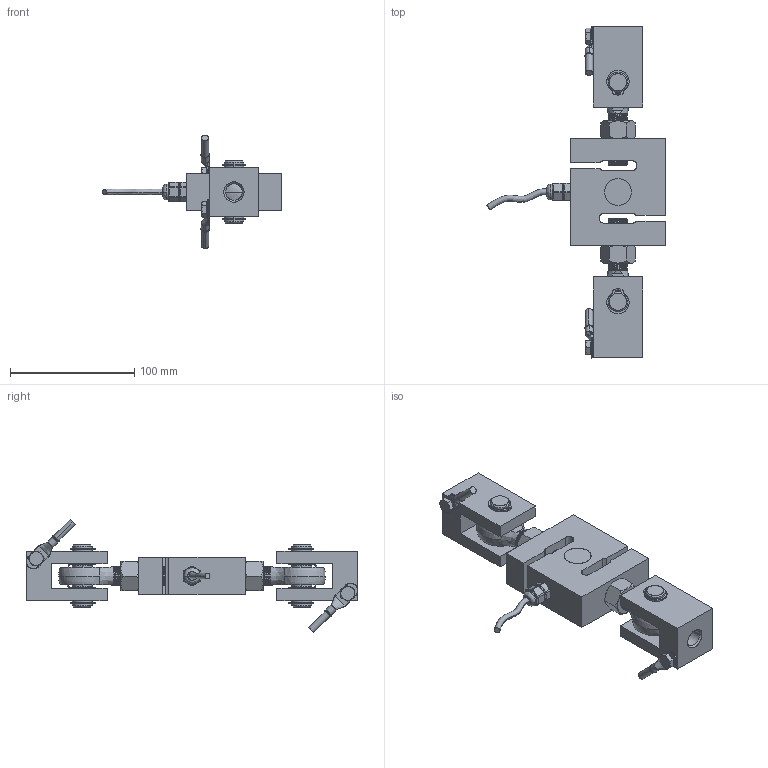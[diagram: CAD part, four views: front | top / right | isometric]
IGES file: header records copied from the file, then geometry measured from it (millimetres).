
Start section: SolidWorks IGES file using analytic representation for surfaces
Global section: file name: C:\Users\nasc01\Desktop\Load_Point_HILPTLB_4.4KLB\Load_Point_HILPTLB_4.4KLB_3D\HI LPTLB_4.4KLB.IGS; native system: SolidWorks 2013; preprocessor: SolidWorks 2013; author: nasc01; date: 141014.142244; units: millimetre
Bounding box: 143.73 x 267.15 x 91.1 mm (x, y, z)
Surface area: 106273 mm2 (no closed solid volume)
Topology: 0 solids, 0 shells, 1109 faces, 14174 edges, 14166 vertices
Faces by surface type: revolution 867, bspline 242
